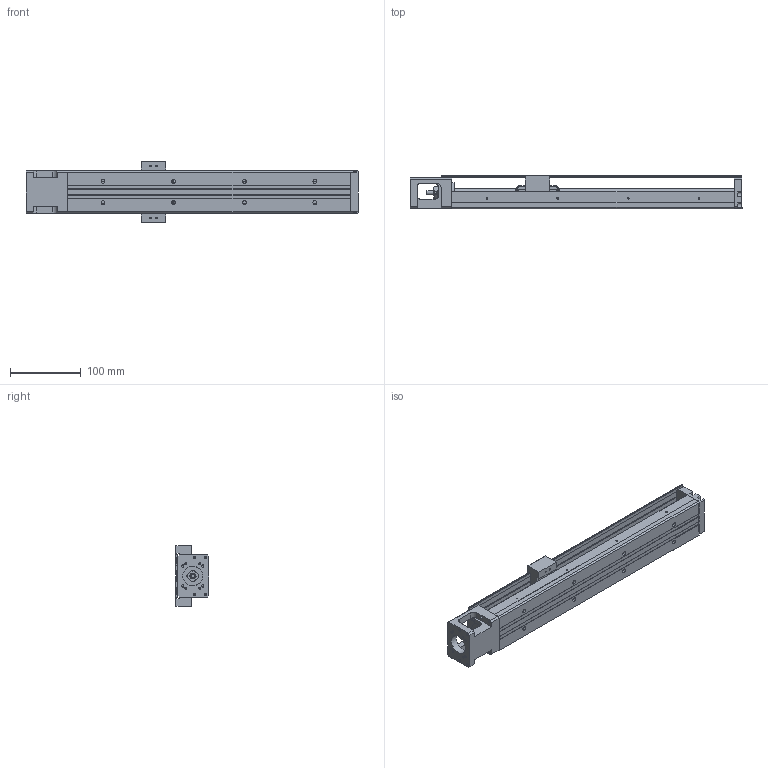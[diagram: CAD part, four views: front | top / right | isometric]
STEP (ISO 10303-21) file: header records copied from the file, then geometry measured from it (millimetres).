
FILE_DESCRIPTION(/* description */ (''),/* implementation_level */ '2;1');
FILE_NAME(/* name */ '33S-400C.stp',/* time_stamp */ '2016-12-20T13:38:10+08:00',/* author */ (''),/* organization */ (''),/* preprocessor_version */ 'ST-DEVELOPER v11',/* originating_system */ 'SIEMENS UGS NX 6.0',/* authorisation */ '');
FILE_SCHEMA (('AUTOMOTIVE_DESIGN { 1 0 10303 214 1 1 1 1 }'));
Length unit declared in the file: millimetre
Products named in the file (1): model4
Bounding box: 470 x 47.95 x 86 mm (x, y, z)
Volume: 599409.1 mm3; surface area: 214504.5 mm2
Topology: 7 solids, 16 shells, 708 faces, 1799 edges, 1188 vertices
Faces by surface type: plane 423, cylinder 200, bspline 31, cone 22, extrusion 21, torus 9, revolution 2
Full cylindrical faces by diameter (mm): 1.6 x3, 1.65 x4, 2.15 x8, 2.42 x4, 2.45 x8, 2.5 x16, 3.2 x4, 3.3 x4, 3.4 x4, 3.5 x10, 3.969 x1, 4 x4, 4.001 x1, 4.135 x2, 4.2 x2, 5.5 x8, 6 x5, 7.6 x1, 8 x5, 9.5 x8, 10.72 x3, 11.8 x2, 12 x6, 12.8 x1, 13 x2, 14 x1, 17.38 x3, 21.5 x1, 22 x2, 28 x1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
Entity records: 36503 total; most frequent: CARTESIAN_POINT 16522, DIRECTION 3218, ORIENTED_EDGE 3126, EDGE_CURVE 1563, AXIS2_PLACEMENT_3D 1127, VERTEX_POINT 1109, EDGE_LOOP 1000, VECTOR 962
